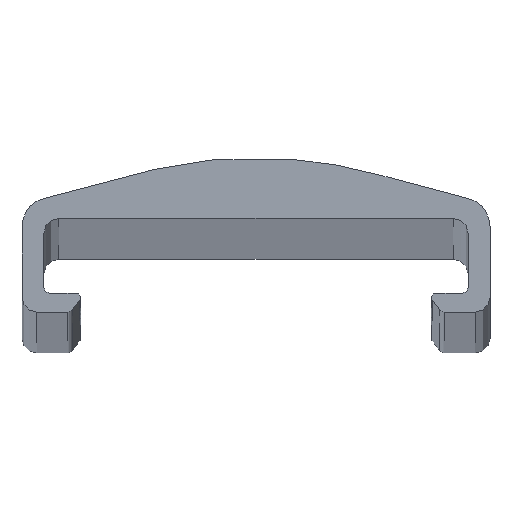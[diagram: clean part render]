
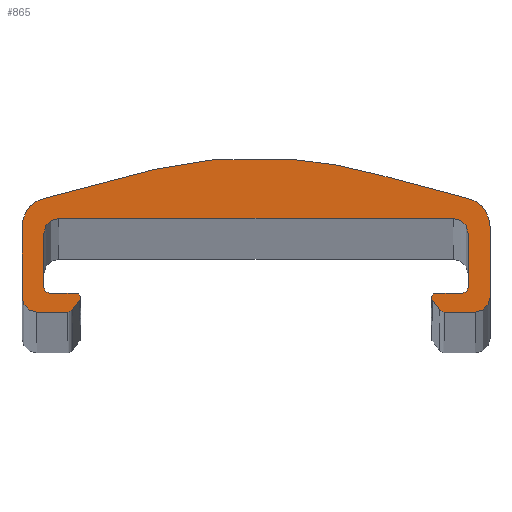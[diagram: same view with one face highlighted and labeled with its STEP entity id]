
A CAD part, top view. The second image highlights one B-rep face of the part: STEP entity #865.
In plain terms, the highlighted planar face has unit normal (0, 0, 1).
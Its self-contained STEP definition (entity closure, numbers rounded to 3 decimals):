
#73=CARTESIAN_POINT('',(-14.,5.834,800.));
#74=DIRECTION('',(0.,0.,-1.));
#75=DIRECTION('',(-1.,0.,0.));
#76=AXIS2_PLACEMENT_3D('',#73,#74,#75);
#82=CARTESIAN_POINT('',(-14.483,7.775,800.));
#83=CARTESIAN_POINT('',(-14.327,7.814,800.));
#84=CARTESIAN_POINT('',(-13.508,8.018,800.));
#85=CARTESIAN_POINT('',(-12.362,8.308,800.));
#86=CARTESIAN_POINT('',(-11.043,8.655,800.));
#87=CARTESIAN_POINT('',(-10.056,8.922,800.));
#88=CARTESIAN_POINT('',(-9.072,9.199,800.));
#89=CARTESIAN_POINT('',(-7.761,9.575,800.));
#90=CARTESIAN_POINT('',(-6.099,9.961,800.));
#91=CARTESIAN_POINT('',(-4.081,10.3,800.));
#92=CARTESIAN_POINT('',(-2.045,10.506,800.));
#93=CARTESIAN_POINT('',(0.,10.575,800.));
#94=CARTESIAN_POINT('',(2.045,10.506,800.));
#95=CARTESIAN_POINT('',(4.081,10.3,800.));
#96=CARTESIAN_POINT('',(6.099,9.961,800.));
#97=CARTESIAN_POINT('',(7.761,9.575,800.));
#98=CARTESIAN_POINT('',(9.072,9.199,800.));
#99=CARTESIAN_POINT('',(10.056,8.922,800.));
#100=CARTESIAN_POINT('',(11.043,8.655,800.));
#101=CARTESIAN_POINT('',(12.362,8.308,800.));
#102=CARTESIAN_POINT('',(13.509,8.018,800.));
#103=CARTESIAN_POINT('',(14.326,7.814,800.));
#104=CARTESIAN_POINT('',(14.482,7.775,800.));
#109=CARTESIAN_POINT('',(14.,5.834,800.));
#110=DIRECTION('',(0.,0.,-1.));
#111=DIRECTION('',(0.241,0.97,0.));
#112=AXIS2_PLACEMENT_3D('',#109,#110,#111);
#117=CARTESIAN_POINT('',(15.,1.,800.));
#118=DIRECTION('',(0.,0.,-1.));
#119=DIRECTION('',(1.,0.,0.));
#120=AXIS2_PLACEMENT_3D('',#117,#118,#119);
#125=CARTESIAN_POINT('',(12.877,0.4,800.));
#126=DIRECTION('',(0.,0.,-1.));
#127=DIRECTION('',(0.,-1.,0.));
#128=AXIS2_PLACEMENT_3D('',#125,#126,#127);
#133=DIRECTION('',(-0.602,0.799,0.));
#134=VECTOR('',#133,0.827);
#135=CARTESIAN_POINT('',(12.558,0.159,800.));
#136=LINE('',#135,#134);
#140=CARTESIAN_POINT('',(12.3,1.,800.));
#141=DIRECTION('',(0.,0.,-1.));
#142=DIRECTION('',(-0.799,-0.602,0.));
#143=AXIS2_PLACEMENT_3D('',#140,#141,#142);
#148=CARTESIAN_POINT('',(12.3,1.,800.));
#149=DIRECTION('',(0.,0.,-1.));
#150=DIRECTION('',(-1.,0.,0.));
#151=AXIS2_PLACEMENT_3D('',#148,#149,#150);
#156=CARTESIAN_POINT('',(14.1,1.7,800.));
#157=DIRECTION('',(0.,0.,1.));
#158=DIRECTION('',(0.,-1.,0.));
#159=AXIS2_PLACEMENT_3D('',#156,#157,#158);
#164=CARTESIAN_POINT('',(13.5,5.4,800.));
#165=DIRECTION('',(0.,0.,1.));
#166=DIRECTION('',(1.,0.,0.));
#167=AXIS2_PLACEMENT_3D('',#164,#165,#166);
#172=CARTESIAN_POINT('',(-13.5,5.4,800.));
#173=DIRECTION('',(0.,0.,1.));
#174=DIRECTION('',(0.,1.,0.));
#175=AXIS2_PLACEMENT_3D('',#172,#173,#174);
#180=CARTESIAN_POINT('',(-14.1,1.7,800.));
#181=DIRECTION('',(0.,0.,1.));
#182=DIRECTION('',(-1.,0.,0.));
#183=AXIS2_PLACEMENT_3D('',#180,#181,#182);
#188=CARTESIAN_POINT('',(-12.3,1.,800.));
#189=DIRECTION('',(0.,0.,-1.));
#190=DIRECTION('',(0.,1.,0.));
#191=AXIS2_PLACEMENT_3D('',#188,#189,#190);
#196=CARTESIAN_POINT('',(-12.3,1.,800.));
#197=DIRECTION('',(0.,0.,-1.));
#198=DIRECTION('',(1.,0.,0.));
#199=AXIS2_PLACEMENT_3D('',#196,#197,#198);
#204=DIRECTION('',(-0.602,-0.799,0.));
#205=VECTOR('',#204,0.827);
#206=CARTESIAN_POINT('',(-12.06,0.819,800.));
#207=LINE('',#206,#205);
#211=CARTESIAN_POINT('',(-12.877,0.4,800.));
#212=DIRECTION('',(0.,0.,-1.));
#213=DIRECTION('',(0.799,-0.602,0.));
#214=AXIS2_PLACEMENT_3D('',#211,#212,#213);
#219=DIRECTION('',(-1.,0.,0.));
#220=VECTOR('',#219,2.123);
#221=CARTESIAN_POINT('',(-12.877,0.,800.));
#222=LINE('',#221,#220);
#226=CARTESIAN_POINT('',(-15.,1.,800.));
#227=DIRECTION('',(0.,0.,-1.));
#228=DIRECTION('',(0.,-1.,0.));
#229=AXIS2_PLACEMENT_3D('',#226,#227,#228);
#241=DIRECTION('',(0.,1.,0.));
#242=VECTOR('',#241,4.834);
#243=CARTESIAN_POINT('',(-16.,1.,800.));
#244=LINE('',#243,#242);
#457=DIRECTION('',(0.,-1.,0.));
#458=VECTOR('',#457,4.834);
#459=CARTESIAN_POINT('',(16.,5.834,800.));
#460=LINE('',#459,#458);
#478=DIRECTION('',(-1.,0.,0.));
#479=VECTOR('',#478,2.123);
#480=CARTESIAN_POINT('',(15.,0.,800.));
#481=LINE('',#480,#479);
#527=DIRECTION('',(1.,0.,0.));
#528=VECTOR('',#527,1.8);
#529=CARTESIAN_POINT('',(12.3,1.3,800.));
#530=LINE('',#529,#528);
#555=DIRECTION('',(0.,1.,0.));
#556=VECTOR('',#555,3.7);
#557=CARTESIAN_POINT('',(14.5,1.7,800.));
#558=LINE('',#557,#556);
#583=DIRECTION('',(-1.,0.,0.));
#584=VECTOR('',#583,27.);
#585=CARTESIAN_POINT('',(13.5,6.4,800.));
#586=LINE('',#585,#584);
#611=DIRECTION('',(0.,1.,0.));
#612=VECTOR('',#611,3.7);
#613=CARTESIAN_POINT('',(-14.5,1.7,800.));
#614=LINE('',#613,#612);
#639=DIRECTION('',(-1.,0.,0.));
#640=VECTOR('',#639,1.8);
#641=CARTESIAN_POINT('',(-12.3,1.3,800.));
#642=LINE('',#641,#640);
#688=CARTESIAN_POINT('',(-12.877,0.,800.));
#689=CARTESIAN_POINT('',(-15.,0.,800.));
#690=VERTEX_POINT('',#688);
#691=VERTEX_POINT('',#689);
#696=CARTESIAN_POINT('',(-16.,5.834,800.));
#697=CARTESIAN_POINT('',(-14.484,7.775,800.));
#698=VERTEX_POINT('',#696);
#699=VERTEX_POINT('',#697);
#700=CARTESIAN_POINT('',(-16.,1.,800.));
#701=VERTEX_POINT('',#700);
#702=CARTESIAN_POINT('',(-12.558,0.159,800.));
#703=VERTEX_POINT('',#702);
#704=CARTESIAN_POINT('',(-12.06,0.819,800.));
#705=VERTEX_POINT('',#704);
#706=CARTESIAN_POINT('',(-12.,1.,800.));
#707=VERTEX_POINT('',#706);
#708=CARTESIAN_POINT('',(-12.3,1.3,800.));
#709=VERTEX_POINT('',#708);
#710=CARTESIAN_POINT('',(-14.1,1.3,800.));
#711=VERTEX_POINT('',#710);
#712=CARTESIAN_POINT('',(-14.5,1.7,800.));
#713=VERTEX_POINT('',#712);
#714=CARTESIAN_POINT('',(-14.5,5.4,800.));
#715=VERTEX_POINT('',#714);
#716=CARTESIAN_POINT('',(-13.5,6.4,800.));
#717=VERTEX_POINT('',#716);
#718=CARTESIAN_POINT('',(13.5,6.4,800.));
#719=VERTEX_POINT('',#718);
#720=CARTESIAN_POINT('',(14.5,5.4,800.));
#721=VERTEX_POINT('',#720);
#722=CARTESIAN_POINT('',(14.5,1.7,800.));
#723=VERTEX_POINT('',#722);
#724=CARTESIAN_POINT('',(14.1,1.3,800.));
#725=VERTEX_POINT('',#724);
#726=CARTESIAN_POINT('',(12.3,1.3,800.));
#727=VERTEX_POINT('',#726);
#728=CARTESIAN_POINT('',(12.,1.,800.));
#729=VERTEX_POINT('',#728);
#730=CARTESIAN_POINT('',(12.06,0.819,800.));
#731=VERTEX_POINT('',#730);
#732=CARTESIAN_POINT('',(12.558,0.159,800.));
#733=VERTEX_POINT('',#732);
#734=CARTESIAN_POINT('',(12.877,0.,800.));
#735=VERTEX_POINT('',#734);
#736=CARTESIAN_POINT('',(15.,0.,800.));
#737=VERTEX_POINT('',#736);
#738=CARTESIAN_POINT('',(16.,1.,800.));
#739=VERTEX_POINT('',#738);
#740=CARTESIAN_POINT('',(16.,5.834,800.));
#741=VERTEX_POINT('',#740);
#742=CARTESIAN_POINT('',(14.482,7.775,800.));
#743=VERTEX_POINT('',#742);
#807=CARTESIAN_POINT('',(0.,5.279,800.));
#808=DIRECTION('',(0.,0.,1.));
#809=DIRECTION('',(-1.,0.,0.));
#810=AXIS2_PLACEMENT_3D('',#807,#808,#809);
#811=PLANE('',#810);
#813=ORIENTED_EDGE('',*,*,#812,.T.);
#815=ORIENTED_EDGE('',*,*,#814,.T.);
#817=ORIENTED_EDGE('',*,*,#816,.T.);
#819=ORIENTED_EDGE('',*,*,#818,.T.);
#821=ORIENTED_EDGE('',*,*,#820,.T.);
#823=ORIENTED_EDGE('',*,*,#822,.T.);
#825=ORIENTED_EDGE('',*,*,#824,.T.);
#827=ORIENTED_EDGE('',*,*,#826,.T.);
#829=ORIENTED_EDGE('',*,*,#828,.T.);
#831=ORIENTED_EDGE('',*,*,#830,.T.);
#833=ORIENTED_EDGE('',*,*,#832,.T.);
#835=ORIENTED_EDGE('',*,*,#834,.T.);
#837=ORIENTED_EDGE('',*,*,#836,.T.);
#839=ORIENTED_EDGE('',*,*,#838,.T.);
#841=ORIENTED_EDGE('',*,*,#840,.T.);
#843=ORIENTED_EDGE('',*,*,#842,.T.);
#845=ORIENTED_EDGE('',*,*,#844,.F.);
#847=ORIENTED_EDGE('',*,*,#846,.T.);
#849=ORIENTED_EDGE('',*,*,#848,.F.);
#851=ORIENTED_EDGE('',*,*,#850,.T.);
#853=ORIENTED_EDGE('',*,*,#852,.T.);
#855=ORIENTED_EDGE('',*,*,#854,.T.);
#857=ORIENTED_EDGE('',*,*,#856,.T.);
#858=ORIENTED_EDGE('',*,*,#796,.T.);
#860=ORIENTED_EDGE('',*,*,#859,.T.);
#862=ORIENTED_EDGE('',*,*,#861,.T.);
#863=EDGE_LOOP('',(#813,#815,#817,#819,#821,#823,#825,#827,#829,#831,#833,#835,
#837,#839,#841,#843,#845,#847,#849,#851,#853,#855,#857,#858,#860,#862));
#864=FACE_OUTER_BOUND('',#863,.F.);
#77=CIRCLE('',#76,2.);
#105=B_SPLINE_CURVE_WITH_KNOTS('',3,(#82,#83,#84,#85,#86,#87,#88,#89,#90,#91,
#92,#93,#94,#95,#96,#97,#98,#99,#100,#101,#102,#103,#104),.UNSPECIFIED.,.F.,.F.,
(4,1,1,1,1,1,1,1,1,1,1,1,1,1,1,1,1,1,1,1,4),(0.,0.016,
0.085,0.12,0.154,0.189,
0.224,0.293,0.362,0.431,
0.5,0.569,0.638,0.707,
0.776,0.811,0.846,0.88,
0.915,0.984,1.),.UNSPECIFIED.);
#113=CIRCLE('',#112,2.);
#121=CIRCLE('',#120,1.);
#129=CIRCLE('',#128,0.4);
#144=CIRCLE('',#143,0.3);
#152=CIRCLE('',#151,0.3);
#160=CIRCLE('',#159,0.4);
#168=CIRCLE('',#167,1.);
#176=CIRCLE('',#175,1.);
#184=CIRCLE('',#183,0.4);
#192=CIRCLE('',#191,0.3);
#200=CIRCLE('',#199,0.3);
#215=CIRCLE('',#214,0.4);
#230=CIRCLE('',#229,1.);
#796=EDGE_CURVE('',#690,#691,#222,.T.);
#812=EDGE_CURVE('',#698,#699,#77,.T.);
#814=EDGE_CURVE('',#699,#743,#105,.T.);
#816=EDGE_CURVE('',#743,#741,#113,.T.);
#818=EDGE_CURVE('',#741,#739,#460,.T.);
#820=EDGE_CURVE('',#739,#737,#121,.T.);
#822=EDGE_CURVE('',#737,#735,#481,.T.);
#824=EDGE_CURVE('',#735,#733,#129,.T.);
#826=EDGE_CURVE('',#733,#731,#136,.T.);
#828=EDGE_CURVE('',#731,#729,#144,.T.);
#830=EDGE_CURVE('',#729,#727,#152,.T.);
#832=EDGE_CURVE('',#727,#725,#530,.T.);
#834=EDGE_CURVE('',#725,#723,#160,.T.);
#836=EDGE_CURVE('',#723,#721,#558,.T.);
#838=EDGE_CURVE('',#721,#719,#168,.T.);
#840=EDGE_CURVE('',#719,#717,#586,.T.);
#842=EDGE_CURVE('',#717,#715,#176,.T.);
#844=EDGE_CURVE('',#713,#715,#614,.T.);
#846=EDGE_CURVE('',#713,#711,#184,.T.);
#848=EDGE_CURVE('',#709,#711,#642,.T.);
#850=EDGE_CURVE('',#709,#707,#192,.T.);
#852=EDGE_CURVE('',#707,#705,#200,.T.);
#854=EDGE_CURVE('',#705,#703,#207,.T.);
#856=EDGE_CURVE('',#703,#690,#215,.T.);
#859=EDGE_CURVE('',#691,#701,#230,.T.);
#861=EDGE_CURVE('',#701,#698,#244,.T.);
#865=ADVANCED_FACE('',(#864),#811,.T.);
